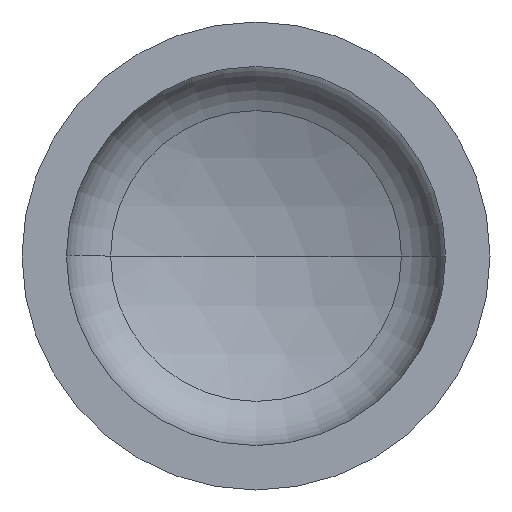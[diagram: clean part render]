
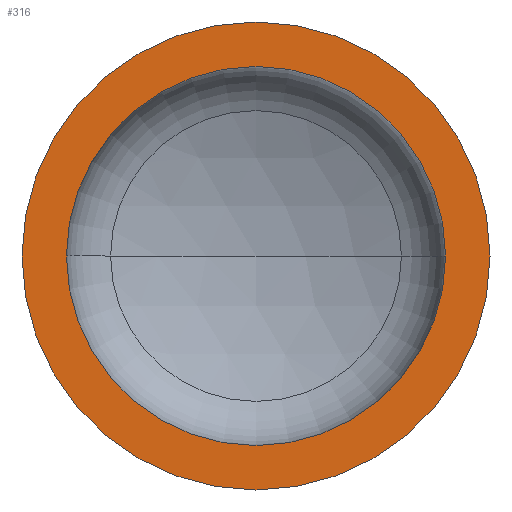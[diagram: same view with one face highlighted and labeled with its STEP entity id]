
A CAD part, front view. The second image highlights one B-rep face of the part: STEP entity #316.
In plain terms, the highlighted planar face has unit normal (0, -1, 0).
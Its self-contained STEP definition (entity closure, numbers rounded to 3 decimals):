
#1 = ORIENTED_EDGE ( 'NONE', *, *, #393, .T. ) ;
#24 = AXIS2_PLACEMENT_3D ( 'NONE', #337, #212, #211 ) ;
#26 = EDGE_LOOP ( 'NONE', ( #1, #48 ) ) ;
#35 = AXIS2_PLACEMENT_3D ( 'NONE', #308, #335, #331 ) ;
#45 = VERTEX_POINT ( 'NONE', #223 ) ;
#48 = ORIENTED_EDGE ( 'NONE', *, *, #136, .T. ) ;
#58 = ORIENTED_EDGE ( 'NONE', *, *, #138, .F. ) ;
#60 = VERTEX_POINT ( 'NONE', #375 ) ;
#71 = VERTEX_POINT ( 'NONE', #163 ) ;
#79 = VERTEX_POINT ( 'NONE', #389 ) ;
#94 = ORIENTED_EDGE ( 'NONE', *, *, #364, .F. ) ;
#99 = AXIS2_PLACEMENT_3D ( 'NONE', #391, #286, #282 ) ;
#102 = AXIS2_PLACEMENT_3D ( 'NONE', #326, #297, #330 ) ;
#121 = FACE_OUTER_BOUND ( 'NONE', #26, .T. ) ;
#136 = EDGE_CURVE ( 'NONE', #60, #45, #188, .T. ) ;
#138 = EDGE_CURVE ( 'NONE', #79, #71, #371, .T. ) ;
#151 = CARTESIAN_POINT ( 'NONE',  ( 0., 0., 0. ) ) ;
#163 = CARTESIAN_POINT ( 'NONE',  ( -486., 0., 0. ) ) ;
#186 = AXIS2_PLACEMENT_3D ( 'NONE', #151, #264, #305 ) ;
#188 = CIRCLE ( 'NONE', #102, 600. ) ;
#211 = DIRECTION ( 'NONE',  ( 1., 0., 0. ) ) ;
#212 = DIRECTION ( 'NONE',  ( 0., -1., 0. ) ) ;
#223 = CARTESIAN_POINT ( 'NONE',  ( 600., 0., 0. ) ) ;
#250 = CIRCLE ( 'NONE', #186, 600. ) ;
#264 = DIRECTION ( 'NONE',  ( 0., -1., 0. ) ) ;
#281 = FACE_BOUND ( 'NONE', #396, .T. ) ;
#282 = DIRECTION ( 'NONE',  ( 1., 0., 0. ) ) ;
#286 = DIRECTION ( 'NONE',  ( 0., -1., 0. ) ) ;
#297 = DIRECTION ( 'NONE',  ( 0., -1., 0. ) ) ;
#305 = DIRECTION ( 'NONE',  ( 1., 0., 0. ) ) ;
#308 = CARTESIAN_POINT ( 'NONE',  ( -600., 0., 0. ) ) ;
#309 = PLANE ( 'NONE',  #35 ) ;
#316 = ADVANCED_FACE ( 'NONE', ( #281, #121 ), #309, .F. ) ;
#326 = CARTESIAN_POINT ( 'NONE',  ( 0., 0., 0. ) ) ;
#330 = DIRECTION ( 'NONE',  ( 1., 0., 0. ) ) ;
#331 = DIRECTION ( 'NONE',  ( -1., 0., 0. ) ) ;
#335 = DIRECTION ( 'NONE',  ( 0., 1., 0. ) ) ;
#337 = CARTESIAN_POINT ( 'NONE',  ( 0., 0., 0. ) ) ;
#343 = CIRCLE ( 'NONE', #24, 486. ) ;
#364 = EDGE_CURVE ( 'NONE', #71, #79, #343, .T. ) ;
#371 = CIRCLE ( 'NONE', #99, 486. ) ;
#375 = CARTESIAN_POINT ( 'NONE',  ( -600., 0., 0. ) ) ;
#389 = CARTESIAN_POINT ( 'NONE',  ( 486., 0., 0. ) ) ;
#391 = CARTESIAN_POINT ( 'NONE',  ( 0., 0., 0. ) ) ;
#393 = EDGE_CURVE ( 'NONE', #45, #60, #250, .T. ) ;
#396 = EDGE_LOOP ( 'NONE', ( #58, #94 ) ) ;
